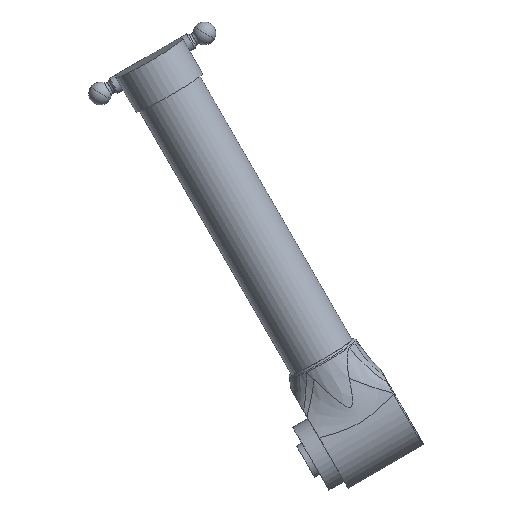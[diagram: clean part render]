
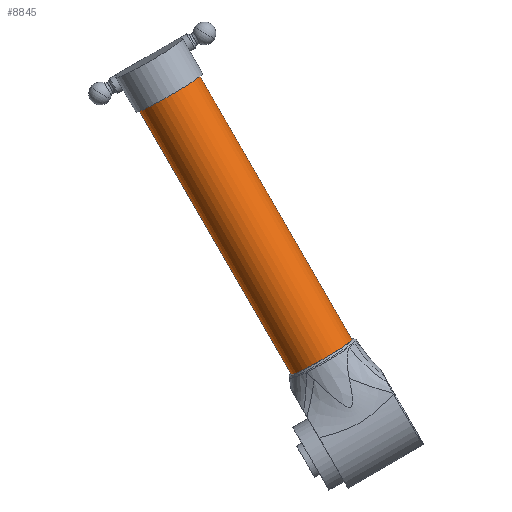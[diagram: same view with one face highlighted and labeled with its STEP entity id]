
A CAD part, top view. The second image highlights one B-rep face of the part: STEP entity #8845.
In plain terms, the highlighted cylindrical face has radius 29 mm (diameter 58 mm), a partial arc.
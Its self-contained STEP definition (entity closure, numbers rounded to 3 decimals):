
#190 = VERTEX_POINT ( 'NONE', #10647 ) ;
#536 = AXIS2_PLACEMENT_3D ( 'NONE', #610, #12998, #2241 ) ;
#610 = CARTESIAN_POINT ( 'NONE',  ( -270.742, 468.938, -248.626 ) ) ;
#934 = LINE ( 'NONE', #8266, #4287 ) ;
#1273 = ORIENTED_EDGE ( 'NONE', *, *, #11118, .T. ) ;
#2033 = DIRECTION ( 'NONE',  ( -0.499, 0.863, 0.077 ) ) ;
#2192 = DIRECTION ( 'NONE',  ( 0.499, -0.863, -0.077 ) ) ;
#2241 = DIRECTION ( 'NONE',  ( -0.866, -0.5, 0. ) ) ;
#2270 = CARTESIAN_POINT ( 'NONE',  ( -260.999, 452.064, -250.131 ) ) ;
#2487 = ORIENTED_EDGE ( 'NONE', *, *, #10860, .T. ) ;
#4070 = CIRCLE ( 'NONE', #10352, 29. ) ;
#4287 = VECTOR ( 'NONE', #14309, 1000. ) ;
#4381 = DIRECTION ( 'NONE',  ( -0.866, -0.5, 0. ) ) ;
#4811 = ORIENTED_EDGE ( 'NONE', *, *, #14352, .F. ) ;
#5299 = CYLINDRICAL_SURFACE ( 'NONE', #536, 29. ) ;
#5306 = CARTESIAN_POINT ( 'NONE',  ( -109.283, 247.283, -269.687 ) ) ;
#6594 = LINE ( 'NONE', #11381, #11111 ) ;
#8266 = CARTESIAN_POINT ( 'NONE',  ( -295.856, 454.438, -248.626 ) ) ;
#8312 = EDGE_CURVE ( 'NONE', #190, #10799, #934, .T. ) ;
#8845 = ADVANCED_FACE ( 'NONE', ( #12531 ), #5299, .T. ) ;
#9377 = AXIS2_PLACEMENT_3D ( 'NONE', #13116, #2033, #4381 ) ;
#9529 = VERTEX_POINT ( 'NONE', #5306 ) ;
#10305 = DIRECTION ( 'NONE',  ( 0.499, -0.863, -0.077 ) ) ;
#10352 = AXIS2_PLACEMENT_3D ( 'NONE', #2270, #2192, #11601 ) ;
#10436 = CARTESIAN_POINT ( 'NONE',  ( -235.884, 466.564, -250.131 ) ) ;
#10647 = CARTESIAN_POINT ( 'NONE',  ( -286.114, 437.564, -250.131 ) ) ;
#10799 = VERTEX_POINT ( 'NONE', #12788 ) ;
#10860 = EDGE_CURVE ( 'NONE', #10799, #9529, #12595, .T. ) ;
#11101 = VERTEX_POINT ( 'NONE', #10436 ) ;
#11111 = VECTOR ( 'NONE', #10305, 1000. ) ;
#11118 = EDGE_CURVE ( 'NONE', #11101, #190, #4070, .T. ) ;
#11381 = CARTESIAN_POINT ( 'NONE',  ( -245.627, 483.438, -248.626 ) ) ;
#11601 = DIRECTION ( 'NONE',  ( -0.866, -0.5, 0. ) ) ;
#12531 = FACE_OUTER_BOUND ( 'NONE', #14371, .T. ) ;
#12595 = CIRCLE ( 'NONE', #9377, 29. ) ;
#12788 = CARTESIAN_POINT ( 'NONE',  ( -159.512, 218.283, -269.687 ) ) ;
#12998 = DIRECTION ( 'NONE',  ( 0.499, -0.863, -0.077 ) ) ;
#13116 = CARTESIAN_POINT ( 'NONE',  ( -134.398, 232.783, -269.687 ) ) ;
#13283 = ORIENTED_EDGE ( 'NONE', *, *, #8312, .T. ) ;
#14309 = DIRECTION ( 'NONE',  ( 0.499, -0.863, -0.077 ) ) ;
#14352 = EDGE_CURVE ( 'NONE', #11101, #9529, #6594, .T. ) ;
#14371 = EDGE_LOOP ( 'NONE', ( #4811, #1273, #13283, #2487 ) ) ;
